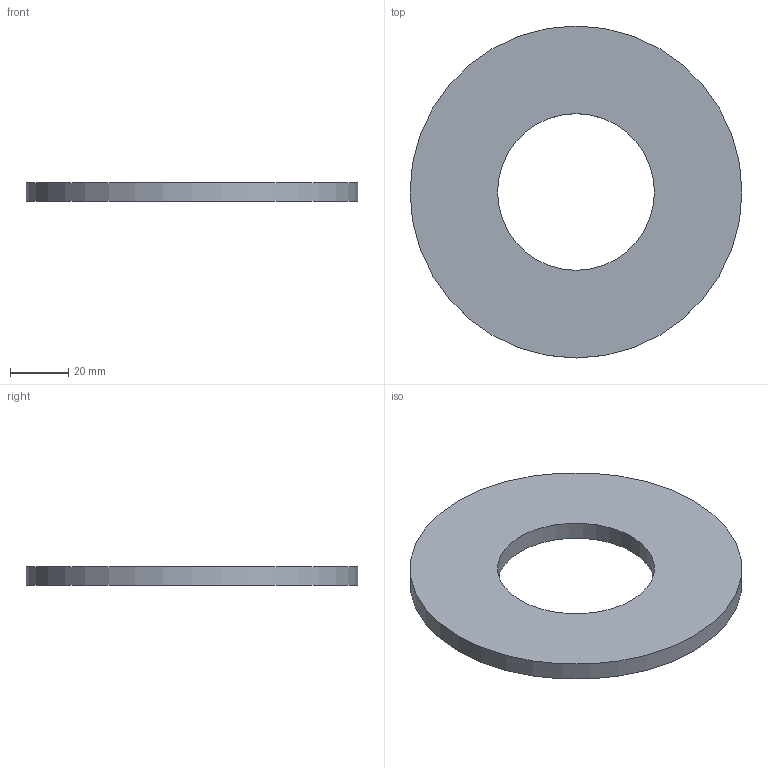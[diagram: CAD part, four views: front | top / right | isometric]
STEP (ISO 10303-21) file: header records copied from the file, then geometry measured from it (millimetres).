
FILE_DESCRIPTION(/* description */ (''),/* implementation_level */ '2;1');
FILE_NAME(/* name */ 'C:\001_Work\Designs\HLW\HLW-2.000.stp',/* time_stamp */ '2015-09-04T09:05:03-04:00',/* author */ ('rramoutar'),/* organization */ ('Mason Industries Inc.'),/* preprocessor_version */ 'ST-DEVELOPER v15.6',/* originating_system */ 'Autodesk Inventor 2015',/* authorisation */ '');
FILE_SCHEMA (('AUTOMOTIVE_DESIGN { 1 0 10303 214 3 1 1 }'));
Length unit declared in the file: inch
Products named in the file (1): HLW-2.000
Bounding box: 114.3 x 114.3 x 6.35 mm (x, y, z)
Volume: 50626.8 mm3; surface area: 19302.4 mm2
Topology: 1 solids, 1 shells, 4 faces, 6 edges, 4 vertices
Faces by surface type: cylinder 2, plane 2
Full cylindrical faces by diameter (mm): 53.975 x1, 114.3 x1
Entity records: 114 total; most frequent: DIRECTION 18, CARTESIAN_POINT 13, AXIS2_PLACEMENT_3D 9, EDGE_LOOP 8, ORIENTED_EDGE 8, FACE_BOUND 4, FACE_OUTER_BOUND 4, CIRCLE 4
